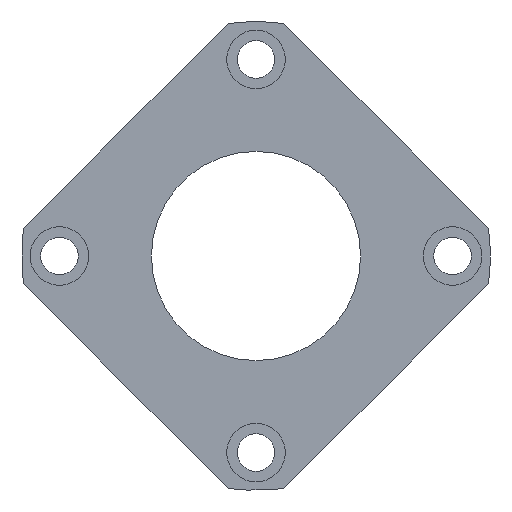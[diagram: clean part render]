
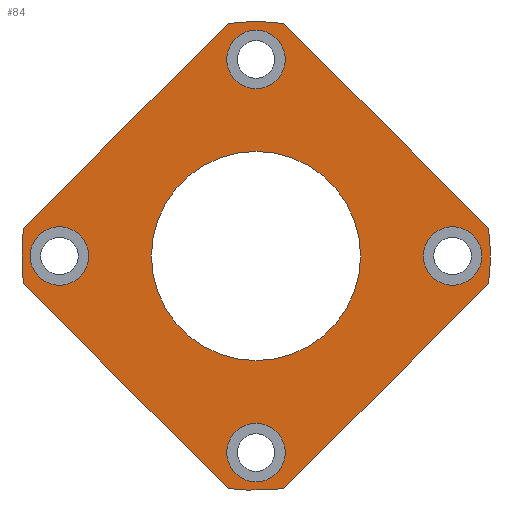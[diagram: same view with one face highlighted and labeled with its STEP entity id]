
A CAD part, left-side view. The second image highlights one B-rep face of the part: STEP entity #84.
In plain terms, the highlighted planar face has unit normal (-1, 0, 0).
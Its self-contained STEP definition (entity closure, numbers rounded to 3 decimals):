
#84 = ADVANCED_FACE( '', ( #125, #126, #127, #128, #129, #130 ), #131, .T. );
#125 = FACE_BOUND( '', #200, .T. );
#126 = FACE_BOUND( '', #201, .T. );
#127 = FACE_OUTER_BOUND( '', #202, .T. );
#128 = FACE_BOUND( '', #203, .T. );
#129 = FACE_BOUND( '', #204, .T. );
#130 = FACE_BOUND( '', #205, .T. );
#131 = PLANE( '', #206 );
#200 = EDGE_LOOP( '', ( #321 ) );
#201 = EDGE_LOOP( '', ( #322 ) );
#202 = EDGE_LOOP( '', ( #323, #324, #325, #326, #327, #328, #329, #330 ) );
#203 = EDGE_LOOP( '', ( #331 ) );
#204 = EDGE_LOOP( '', ( #332 ) );
#205 = EDGE_LOOP( '', ( #333 ) );
#206 = AXIS2_PLACEMENT_3D( '', #334, #335, #336 );
#321 = ORIENTED_EDGE( '', *, *, #444, .T. );
#322 = ORIENTED_EDGE( '', *, *, #434, .T. );
#323 = ORIENTED_EDGE( '', *, *, #445, .F. );
#324 = ORIENTED_EDGE( '', *, *, #430, .F. );
#325 = ORIENTED_EDGE( '', *, *, #419, .F. );
#326 = ORIENTED_EDGE( '', *, *, #427, .F. );
#327 = ORIENTED_EDGE( '', *, *, #415, .F. );
#328 = ORIENTED_EDGE( '', *, *, #429, .F. );
#329 = ORIENTED_EDGE( '', *, *, #423, .F. );
#330 = ORIENTED_EDGE( '', *, *, #443, .F. );
#331 = ORIENTED_EDGE( '', *, *, #446, .T. );
#332 = ORIENTED_EDGE( '', *, *, #447, .T. );
#333 = ORIENTED_EDGE( '', *, *, #448, .T. );
#334 = CARTESIAN_POINT( '', ( 0., 56., 0. ) );
#335 = DIRECTION( '', ( -1., 0., 0. ) );
#336 = DIRECTION( '', ( 0., 0., 1. ) );
#415 = EDGE_CURVE( '', #459, #461, #462, .T. );
#419 = EDGE_CURVE( '', #467, #469, #470, .T. );
#423 = EDGE_CURVE( '', #475, #477, #478, .T. );
#427 = EDGE_CURVE( '', #461, #467, #483, .T. );
#429 = EDGE_CURVE( '', #477, #459, #485, .T. );
#430 = EDGE_CURVE( '', #469, #486, #487, .T. );
#434 = EDGE_CURVE( '', #493, #493, #494, .F. );
#443 = EDGE_CURVE( '', #508, #475, #510, .T. );
#444 = EDGE_CURVE( '', #511, #511, #512, .T. );
#445 = EDGE_CURVE( '', #486, #508, #513, .T. );
#446 = EDGE_CURVE( '', #514, #514, #515, .T. );
#447 = EDGE_CURVE( '', #516, #516, #517, .T. );
#448 = EDGE_CURVE( '', #518, #518, #519, .T. );
#459 = VERTEX_POINT( '', #539 );
#461 = VERTEX_POINT( '', #542 );
#462 = LINE( '', #543, #544 );
#467 = VERTEX_POINT( '', #551 );
#469 = VERTEX_POINT( '', #554 );
#470 = LINE( '', #555, #556 );
#475 = VERTEX_POINT( '', #563 );
#477 = VERTEX_POINT( '', #566 );
#478 = LINE( '', #567, #568 );
#483 = CIRCLE( '', #575, 56. );
#485 = CIRCLE( '', #577, 56. );
#486 = VERTEX_POINT( '', #578 );
#487 = CIRCLE( '', #579, 56. );
#493 = VERTEX_POINT( '', #586 );
#494 = CIRCLE( '', #587, 7. );
#508 = VERTEX_POINT( '', #602 );
#510 = CIRCLE( '', #605, 56. );
#511 = VERTEX_POINT( '', #606 );
#512 = CIRCLE( '', #607, 25. );
#513 = LINE( '', #608, #609 );
#514 = VERTEX_POINT( '', #610 );
#515 = CIRCLE( '', #611, 7. );
#516 = VERTEX_POINT( '', #612 );
#517 = CIRCLE( '', #613, 7. );
#518 = VERTEX_POINT( '', #614 );
#519 = CIRCLE( '', #615, 7. );
#539 = CARTESIAN_POINT( '', ( 0., -55.608, -6.618 ) );
#542 = CARTESIAN_POINT( '', ( 0., -6.618, -55.608 ) );
#543 = CARTESIAN_POINT( '', ( 0., -62.225, 0. ) );
#544 = VECTOR( '', #635, 1000. );
#551 = CARTESIAN_POINT( '', ( 0., 6.618, -55.608 ) );
#554 = CARTESIAN_POINT( '', ( 0., 55.608, -6.618 ) );
#555 = CARTESIAN_POINT( '', ( 0., 0., -62.225 ) );
#556 = VECTOR( '', #639, 1000. );
#563 = CARTESIAN_POINT( '', ( 0., -6.618, 55.608 ) );
#566 = CARTESIAN_POINT( '', ( 0., -55.608, 6.618 ) );
#567 = CARTESIAN_POINT( '', ( 0., 0., 62.225 ) );
#568 = VECTOR( '', #643, 1000. );
#575 = AXIS2_PLACEMENT_3D( '', #649, #650, #651 );
#577 = AXIS2_PLACEMENT_3D( '', #655, #656, #657 );
#578 = CARTESIAN_POINT( '', ( 0., 55.608, 6.618 ) );
#579 = AXIS2_PLACEMENT_3D( '', #658, #659, #660 );
#586 = CARTESIAN_POINT( '', ( 0., 47., 7. ) );
#587 = AXIS2_PLACEMENT_3D( '', #668, #669, #670 );
#602 = CARTESIAN_POINT( '', ( 0., 6.618, 55.608 ) );
#605 = AXIS2_PLACEMENT_3D( '', #691, #692, #693 );
#606 = CARTESIAN_POINT( '', ( 0., 0., -25. ) );
#607 = AXIS2_PLACEMENT_3D( '', #694, #695, #696 );
#608 = CARTESIAN_POINT( '', ( 0., 62.225, 0. ) );
#609 = VECTOR( '', #697, 1000. );
#610 = CARTESIAN_POINT( '', ( 0., 0., 40. ) );
#611 = AXIS2_PLACEMENT_3D( '', #698, #699, #700 );
#612 = CARTESIAN_POINT( '', ( 0., 0., -54. ) );
#613 = AXIS2_PLACEMENT_3D( '', #701, #702, #703 );
#614 = CARTESIAN_POINT( '', ( 0., -47., -7. ) );
#615 = AXIS2_PLACEMENT_3D( '', #704, #705, #706 );
#635 = DIRECTION( '', ( 0., 0.707, -0.707 ) );
#639 = DIRECTION( '', ( 0., 0.707, 0.707 ) );
#643 = DIRECTION( '', ( 0., -0.707, -0.707 ) );
#649 = CARTESIAN_POINT( '', ( 0., 0., 0. ) );
#650 = DIRECTION( '', ( 1., 0., 0. ) );
#651 = DIRECTION( '', ( 0., 0., -1. ) );
#655 = CARTESIAN_POINT( '', ( 0., 0., 0. ) );
#656 = DIRECTION( '', ( 1., 0., 0. ) );
#657 = DIRECTION( '', ( 0., 0., -1. ) );
#658 = CARTESIAN_POINT( '', ( 0., 0., 0. ) );
#659 = DIRECTION( '', ( 1., 0., 0. ) );
#660 = DIRECTION( '', ( 0., 0., -1. ) );
#668 = CARTESIAN_POINT( '', ( 0., 47., 0. ) );
#669 = DIRECTION( '', ( -1., 0., 0. ) );
#670 = DIRECTION( '', ( 0., 0., 1. ) );
#691 = CARTESIAN_POINT( '', ( 0., 0., 0. ) );
#692 = DIRECTION( '', ( 1., 0., 0. ) );
#693 = DIRECTION( '', ( 0., 0., -1. ) );
#694 = CARTESIAN_POINT( '', ( 0., 0., 0. ) );
#695 = DIRECTION( '', ( 1., 0., 0. ) );
#696 = DIRECTION( '', ( 0., 0., -1. ) );
#697 = DIRECTION( '', ( 0., -0.707, 0.707 ) );
#698 = CARTESIAN_POINT( '', ( 0., 0., 47. ) );
#699 = DIRECTION( '', ( 1., 0., 0. ) );
#700 = DIRECTION( '', ( 0., 0., -1. ) );
#701 = CARTESIAN_POINT( '', ( 0., 0., -47. ) );
#702 = DIRECTION( '', ( 1., 0., 0. ) );
#703 = DIRECTION( '', ( 0., 0., -1. ) );
#704 = CARTESIAN_POINT( '', ( 0., -47., 0. ) );
#705 = DIRECTION( '', ( 1., 0., 0. ) );
#706 = DIRECTION( '', ( 0., 0., -1. ) );
